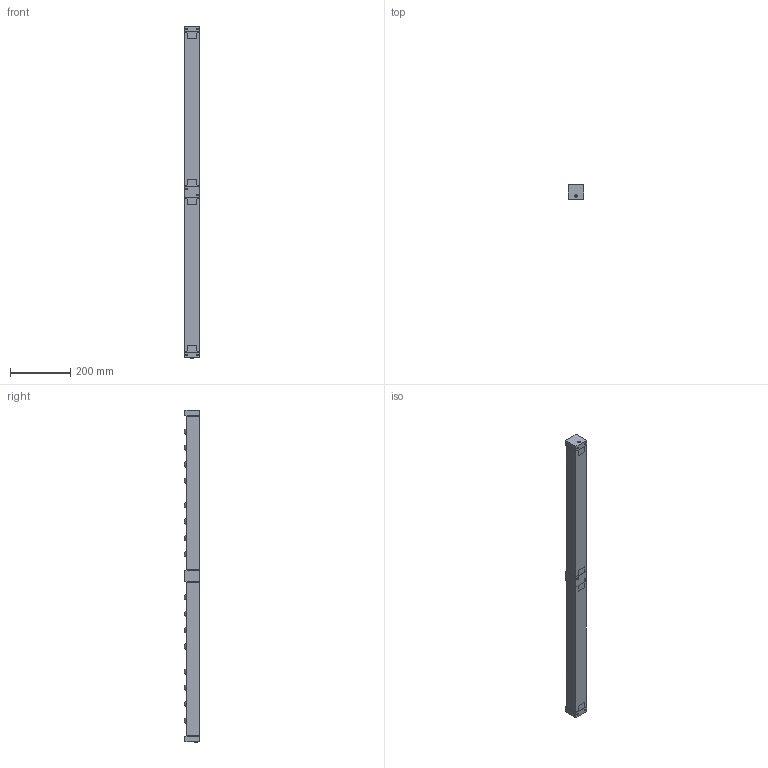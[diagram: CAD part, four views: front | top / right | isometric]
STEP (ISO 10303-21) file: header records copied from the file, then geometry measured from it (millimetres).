
FILE_DESCRIPTION (( 'STEP AP203' ), '1' );
FILE_NAME ('2PVDL50-1100-16.STEP', '2016-03-08T04:40:47', ( '' ), ( '' ), 'SwSTEP 2.0', 'SolidWorks 2013', '' );
FILE_SCHEMA (( 'CONFIG_CONTROL_DESIGN' ));
Length unit declared in the file: millimetre
Products named in the file (1): 2PVDL50-1100-16
Bounding box: 50 x 51 x 1100 mm (x, y, z)
Volume: 1884270.1 mm3; surface area: 459010 mm2
Topology: 10 solids, 10 shells, 319 faces, 744 edges, 501 vertices
Faces by surface type: plane 159, cylinder 132, sphere 16, cone 12
Entity records: 8995 total; most frequent: DIRECTION 1666, CARTESIAN_POINT 1494, ORIENTED_EDGE 1392, EDGE_CURVE 696, AXIS2_PLACEMENT_3D 655, VERTEX_POINT 473, EDGE_LOOP 415, VECTOR 356
